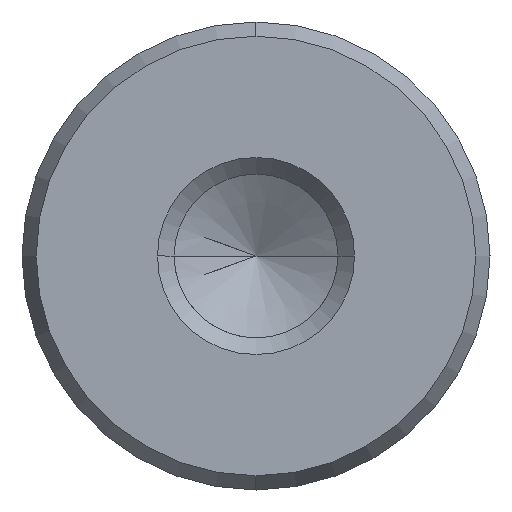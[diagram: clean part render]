
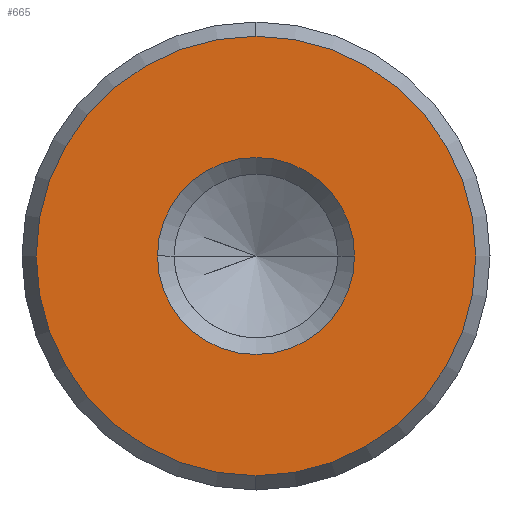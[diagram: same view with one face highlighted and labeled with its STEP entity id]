
A CAD part, left-side view. The second image highlights one B-rep face of the part: STEP entity #665.
In plain terms, the highlighted planar face has unit normal (-1, 0, 0).
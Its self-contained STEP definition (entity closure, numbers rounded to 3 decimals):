
#579=CARTESIAN_POINT('Vertex',(0.,0.,-8.923)) ;
#582=CARTESIAN_POINT('Axis2P3D Location',(0.,0.,0.)) ;
#586=CARTESIAN_POINT('Vertex',(0.,8.923,0.)) ;
#589=CARTESIAN_POINT('Axis2P3D Location',(0.,0.,0.)) ;
#593=CARTESIAN_POINT('Vertex',(0.,0.,8.923)) ;
#615=CARTESIAN_POINT('Axis2P3D Location',(0.,0.,0.)) ;
#619=CARTESIAN_POINT('Vertex',(0.,-8.923,0.)) ;
#622=CARTESIAN_POINT('Axis2P3D Location',(0.,0.,0.)) ;
#636=CARTESIAN_POINT('Axis2P3D Location',(0.,0.,0.)) ;
#647=CARTESIAN_POINT('Axis2P3D Location',(0.,0.,0.)) ;
#651=CARTESIAN_POINT('Vertex',(0.,4.,0.)) ;
#653=CARTESIAN_POINT('Vertex',(0.,-4.,0.)) ;
#656=CARTESIAN_POINT('Axis2P3D Location',(0.,0.,0.)) ;
#583=DIRECTION('Axis2P3D Direction',(1.,0.,-0.)) ;
#590=DIRECTION('Axis2P3D Direction',(1.,0.,-0.)) ;
#616=DIRECTION('Axis2P3D Direction',(1.,0.,-0.)) ;
#623=DIRECTION('Axis2P3D Direction',(1.,0.,-0.)) ;
#637=DIRECTION('Axis2P3D Direction',(1.,0.,-0.)) ;
#638=DIRECTION('Axis2P3D XDirection',(-0.,0.,-1.)) ;
#648=DIRECTION('Axis2P3D Direction',(1.,0.,-0.)) ;
#657=DIRECTION('Axis2P3D Direction',(1.,0.,-0.)) ;
#584=AXIS2_PLACEMENT_3D('Circle Axis2P3D',#582,#583,$) ;
#591=AXIS2_PLACEMENT_3D('Circle Axis2P3D',#589,#590,$) ;
#617=AXIS2_PLACEMENT_3D('Circle Axis2P3D',#615,#616,$) ;
#624=AXIS2_PLACEMENT_3D('Circle Axis2P3D',#622,#623,$) ;
#639=AXIS2_PLACEMENT_3D('Plane Axis2P3D',#636,#637,#638) ;
#649=AXIS2_PLACEMENT_3D('Circle Axis2P3D',#647,#648,$) ;
#658=AXIS2_PLACEMENT_3D('Circle Axis2P3D',#656,#657,$) ;
#642=ORIENTED_EDGE('',*,*,#588,.F.) ;
#643=ORIENTED_EDGE('',*,*,#626,.F.) ;
#644=ORIENTED_EDGE('',*,*,#621,.F.) ;
#645=ORIENTED_EDGE('',*,*,#595,.F.) ;
#662=ORIENTED_EDGE('',*,*,#655,.T.) ;
#663=ORIENTED_EDGE('',*,*,#660,.T.) ;
#664=FACE_BOUND('',#661,.T.) ;
#665=ADVANCED_FACE('720-19x140',(#646,#664),#640,.F.) ;
#585=CIRCLE('generated circle',#584,8.923) ;
#592=CIRCLE('generated circle',#591,8.923) ;
#618=CIRCLE('generated circle',#617,8.923) ;
#625=CIRCLE('generated circle',#624,8.923) ;
#650=CIRCLE('generated circle',#649,4.) ;
#659=CIRCLE('generated circle',#658,4.) ;
#588=EDGE_CURVE('',#580,#587,#585,.T.) ;
#595=EDGE_CURVE('',#587,#594,#592,.T.) ;
#621=EDGE_CURVE('',#594,#620,#618,.T.) ;
#626=EDGE_CURVE('',#620,#580,#625,.T.) ;
#655=EDGE_CURVE('',#652,#654,#650,.T.) ;
#660=EDGE_CURVE('',#654,#652,#659,.T.) ;
#641=EDGE_LOOP('',(#642,#643,#644,#645)) ;
#661=EDGE_LOOP('',(#662,#663)) ;
#646=FACE_OUTER_BOUND('',#641,.T.) ;
#640=PLANE('Plane',#639) ;
#580=VERTEX_POINT('',#579) ;
#587=VERTEX_POINT('',#586) ;
#594=VERTEX_POINT('',#593) ;
#620=VERTEX_POINT('',#619) ;
#652=VERTEX_POINT('',#651) ;
#654=VERTEX_POINT('',#653) ;
